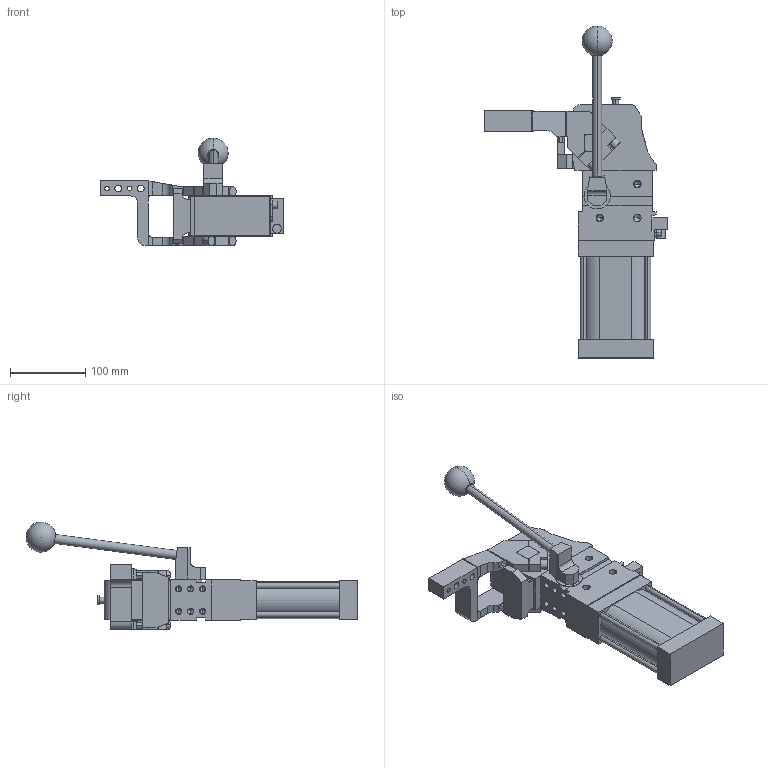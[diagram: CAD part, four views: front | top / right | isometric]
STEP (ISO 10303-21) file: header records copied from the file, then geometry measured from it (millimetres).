
FILE_DESCRIPTION (( 'STEP AP214' ), '1' );
FILE_NAME ('cplm63latv1si1g_135.STEP', '2023-01-26T14:48:25', ( '' ), ( '' ), 'SwSTEP 2.0', 'SolidWorks 2022', '' );
FILE_SCHEMA (( 'AUTOMOTIVE_DESIGN' ));
Length unit declared in the file: millimetre
Products named in the file (5): comando_manuale_cplm_63; meccanica_cplm_63_tassello_esterno; cplm63latv1si1g_135; blocchetto_VEP_0; leva_v1s_cpl63t
Assembly tree (4 placements, depth 2):
  cplm63latv1si1g_135
    meccanica_cplm_63_tassello_esterno
    blocchetto_VEP_0
    leva_v1s_cpl63t
    comando_manuale_cplm_63
Bounding box: 244.5 x 442.23 x 143.5 mm (x, y, z)
Volume: 1897074.5 mm3; surface area: 213512.9 mm2
Topology: 4 solids, 4 shells, 465 faces, 1227 edges, 765 vertices
Faces by surface type: plane 250, cylinder 163, cone 50, sphere 2
Entity records: 15635 total; most frequent: CARTESIAN_POINT 2521, DIRECTION 2466, ORIENTED_EDGE 2352, EDGE_CURVE 1176, AXIS2_PLACEMENT_3D 833, VECTOR 800, LINE 800, VERTEX_POINT 762
